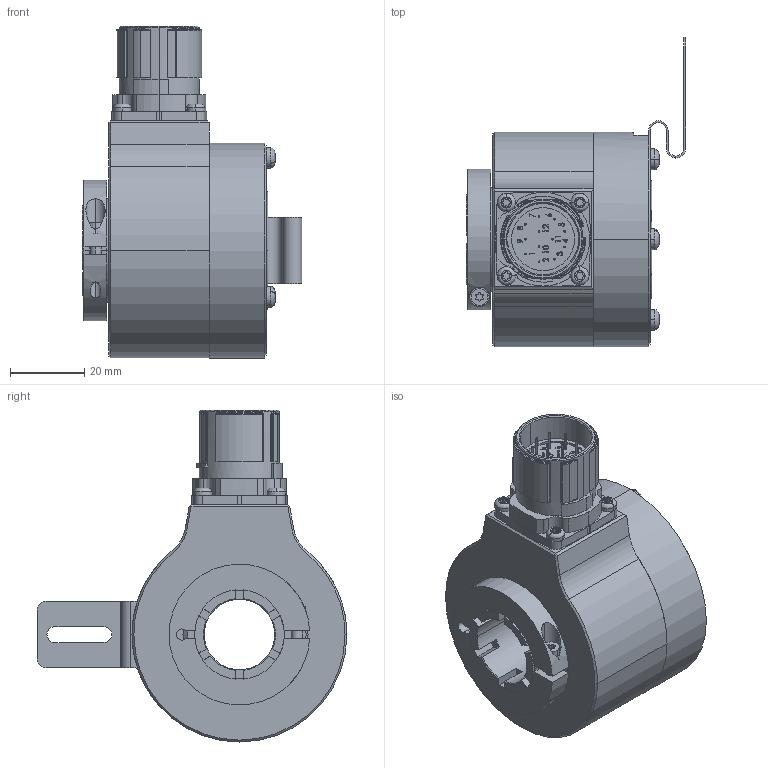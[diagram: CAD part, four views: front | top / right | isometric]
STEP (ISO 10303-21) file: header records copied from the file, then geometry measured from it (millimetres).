
FILE_DESCRIPTION (( 'STEP AP203' ), '1' );
FILE_NAME ('K58I.OXX.XXXXX.XC1555A.XXRC4.step', '2025-12-03T07:18:58', ( '' ), ( '' ), 'SwSTEP 2.0', 'SolidWorks 2021', '' );
FILE_SCHEMA (( 'CONFIG_CONTROL_DESIGN' ));
Length unit declared in the file: millimetre
Products named in the file (1): K58I.OXX.XXXXX.XC1555A.XXRC4
Bounding box: 59.2 x 83.61 x 89.6 mm (x, y, z)
Volume: 120245.8 mm3; surface area: 43872.2 mm2
Topology: 7 solids, 7 shells, 792 faces, 2051 edges, 1300 vertices
Faces by surface type: cylinder 338, plane 243, bspline 102, cone 63, sphere 34, torus 12
Entity records: 30908 total; most frequent: CARTESIAN_POINT 11883, ORIENTED_EDGE 4018, DIRECTION 3866, EDGE_CURVE 2009, AXIS2_PLACEMENT_3D 1460, VERTEX_POINT 1297, LINE 946, VECTOR 946
